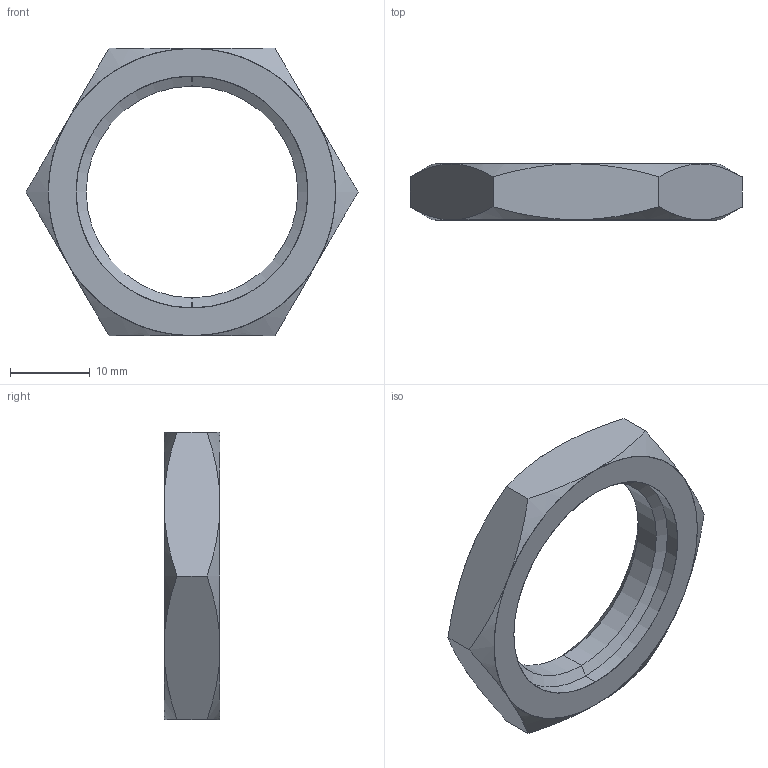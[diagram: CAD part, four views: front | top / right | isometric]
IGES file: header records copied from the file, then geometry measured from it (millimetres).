
Start section: SolidWorks IGES file using analytic representation for surfaces
Global section: file name: K:\Disegni Esecutivi\Accessori\1704\017040001H100.IGS; native system: SolidWorks 2007; preprocessor: SolidWorks 2007; author: cad02; date: 071023.100729; units: millimetre
Bounding box: 41.57 x 7 x 36 mm (x, y, z)
Surface area: 2401.9 mm2 (no closed solid volume)
Topology: 0 solids, 0 shells, 28 faces, 472 edges, 472 vertices
Faces by surface type: revolution 20, bspline 8
